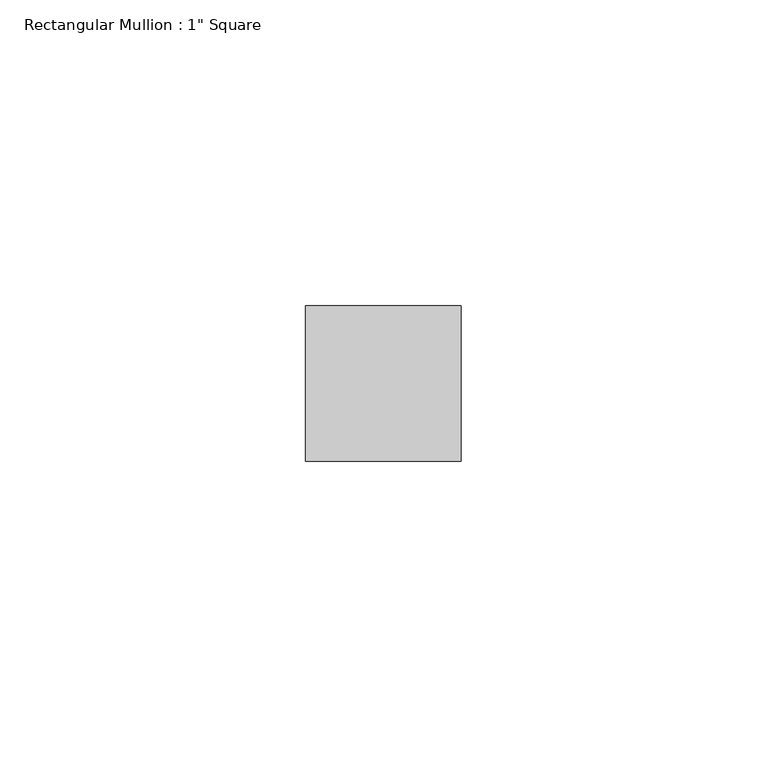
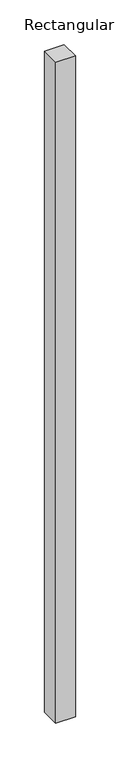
"""IFC4 building model written with IfcOpenShell, lengths in millimetres: member geometry."""

from ifc_helpers import new_model, si_unit, frame, origin, place, context, project, spatial, polyline, outline, extrude, source, transform, mapped, element, save


def member_6b55b28e(model_context):
    return source(origin(), model_context, "Body", "SweptSolid", [
        extrude(outline(polyline([(12.7, 12.7), (12.7, -12.7), (-12.7, -12.7), (-12.7, 12.7), (12.7, 12.7)])), frame((0.0, 0.0, -904.602381), z_axis=(0.0, 0.0, 1.0), x_axis=(1.0, 0.0, 0.0)), (0.0, 0.0, 1.0), 904.602381),
    ])


if __name__ == "__main__":
    model = new_model("IFC4")
    model_context = context("Model", 3, world=origin())
    ifc_project = project(units=[si_unit("LENGTHUNIT", "METRE", prefix="MILLI")], contexts=[model_context])
    site = spatial("IfcSite", under=ifc_project)
    building = spatial("IfcBuilding", under=site)
    placement = place(None, origin())
    member_shape = member_6b55b28e(model_context)
    element("IfcMember", 1, ObjectType="Rectangular Mullion : 1\" Square", at=placement, inside=building, context=model_context, shape_type="MappedRepresentation", body=[
        mapped(member_shape, transform((0.0, 0.0, 0.0), x_axis=(1.0, 0.0, 0.0), y_axis=(0.0, 1.0, 0.0), z_axis=(0.0, 0.0, 1.0))),
    ])
    save(model, "model.ifc")
